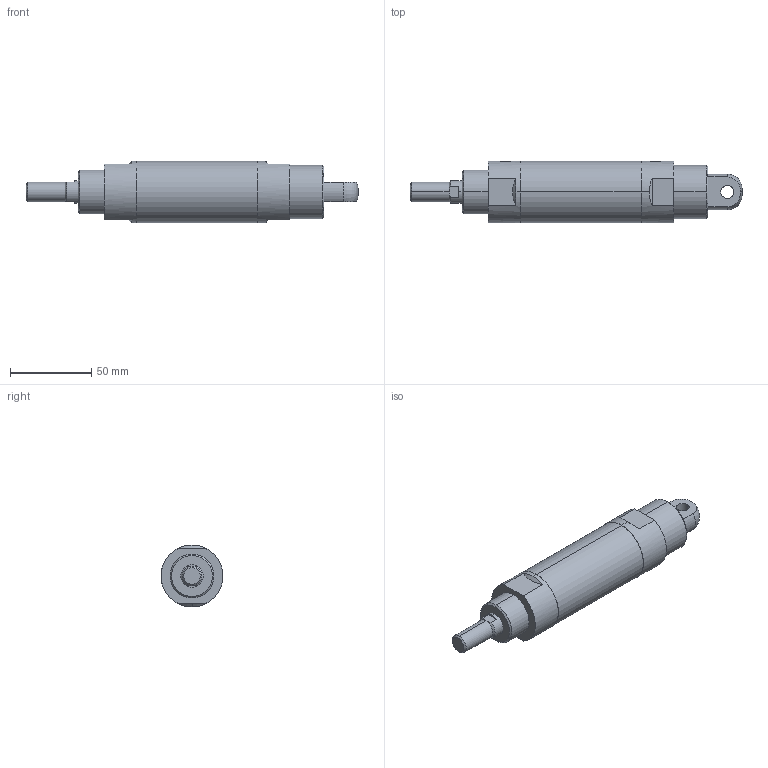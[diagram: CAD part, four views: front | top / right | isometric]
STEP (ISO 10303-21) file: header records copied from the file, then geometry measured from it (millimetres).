
FILE_DESCRIPTION (( 'STEP AP203' ), '1' );
FILE_NAME ('J#2-32-25-C.STEP', '2016-03-08T07:30:08', ( '' ), ( '' ), 'SwSTEP 2.0', 'SolidWorks 2014', '' );
FILE_SCHEMA (( 'CONFIG_CONTROL_DESIGN' ));
Length unit declared in the file: millimetre
Products named in the file (1): J#2-32-25-C
Bounding box: 204 x 38 x 38 mm (x, y, z)
Volume: 158450.6 mm3; surface area: 22915 mm2
Topology: 1 solids, 1 shells, 59 faces, 138 edges, 85 vertices
Faces by surface type: cylinder 22, plane 20, cone 15, torus 2
Entity records: 1996 total; most frequent: CARTESIAN_POINT 574, DIRECTION 293, ORIENTED_EDGE 268, EDGE_CURVE 134, AXIS2_PLACEMENT_3D 118, VERTEX_POINT 85, EDGE_LOOP 69, ADVANCED_FACE 59
